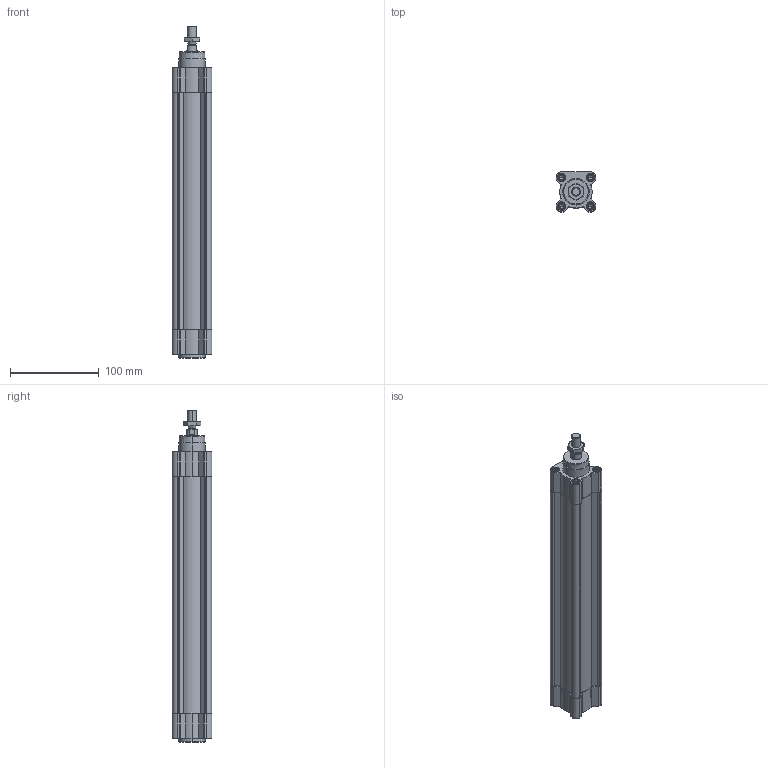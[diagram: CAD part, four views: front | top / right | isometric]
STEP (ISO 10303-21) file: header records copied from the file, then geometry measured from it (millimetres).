
FILE_DESCRIPTION (( 'STEP AP203' ), '1' );
FILE_NAME ('CPME32-230.STEP', '2023-03-30T13:56:28', ( '' ), ( '' ), 'SwSTEP 2.0', 'SolidWorks 2019', '' );
FILE_SCHEMA (( 'CONFIG_CONTROL_DESIGN' ));
Length unit declared in the file: millimetre
Products named in the file (1): CPME32-230
Bounding box: 45 x 45 x 375.1 mm (x, y, z)
Volume: 338798.3 mm3; surface area: 130846.3 mm2
Topology: 3 solids, 3 shells, 633 faces, 1637 edges, 1038 vertices
Faces by surface type: plane 327, cylinder 192, cone 106, torus 8
Entity records: 19692 total; most frequent: CARTESIAN_POINT 4284, ORIENTED_EDGE 3242, DIRECTION 3141, EDGE_CURVE 1621, AXIS2_PLACEMENT_3D 1109, VERTEX_POINT 1038, VECTOR 923, LINE 923
